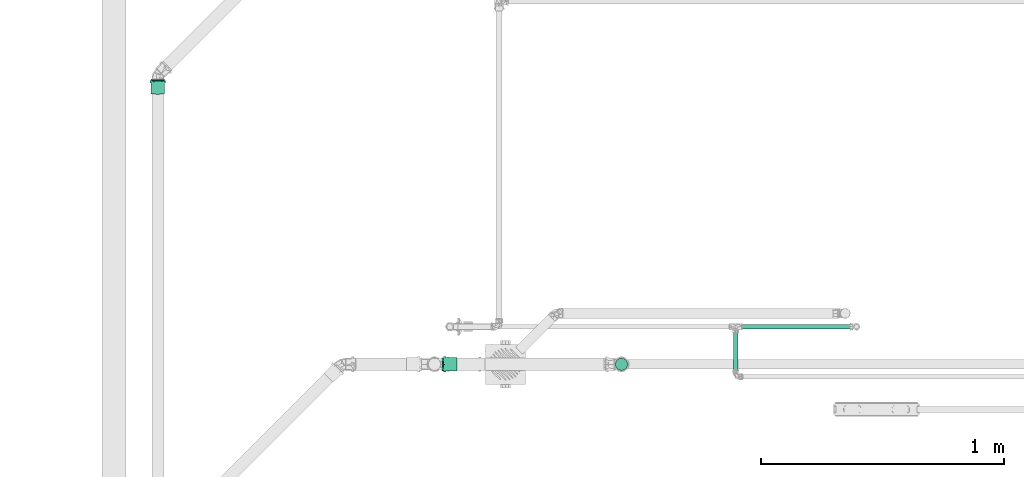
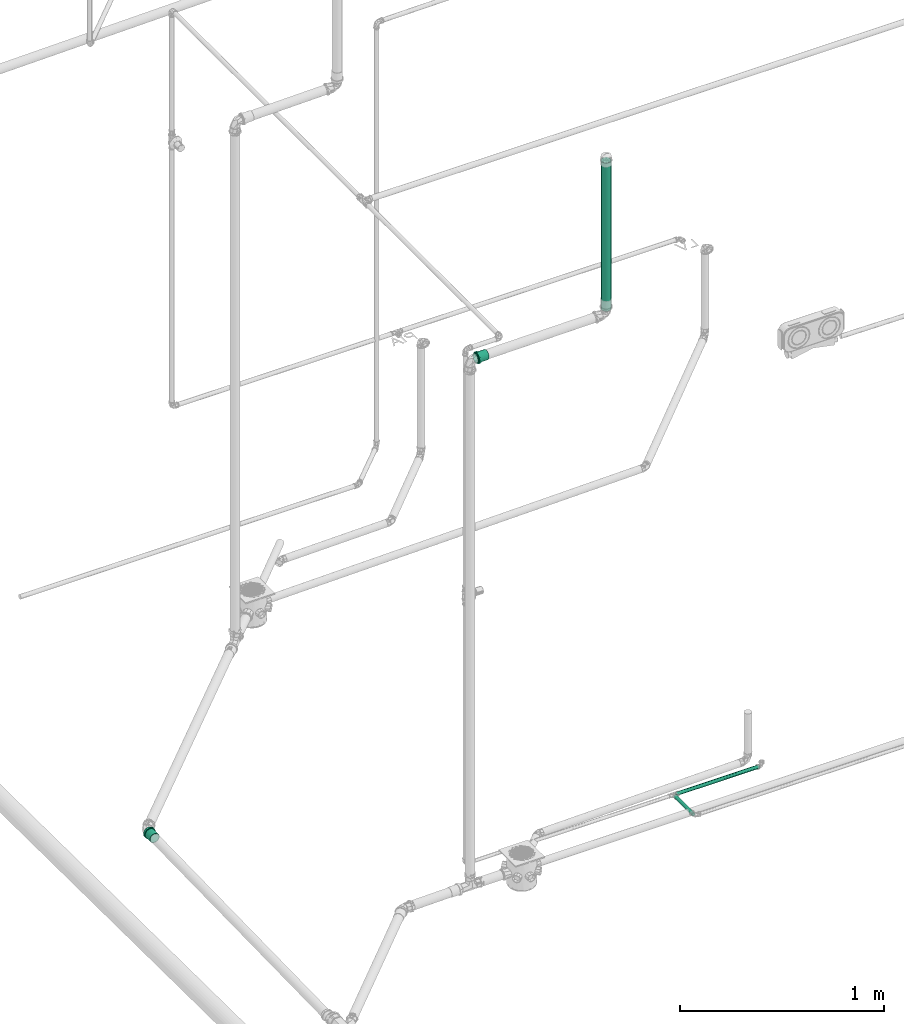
# One storey, part 31 of 589: 3 flow segments, 2 flow fittings.
"""IFC2X3 building model written with IfcOpenShell, lengths in millimetres."""

from ifc_helpers import new_model, entity, si_unit, converted_unit, derived_unit, direction, frame, frame_2d, origin, origin_2d_with_axis, place, context, subcontext, project, spatial, circle, extrude, faceted_brep, source, transform, mapped, material, type_object, type_shapes, element, save


model = new_model("IFC2X3")

# Units and contexts
model_context = context("Model", 3, precision=0.01, world=origin(), true_north=direction((6.123031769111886e-17, 1.0)))
body_context = subcontext(model_context, "Body", "Model", "MODEL_VIEW")
ifc_project = project(units=[si_unit("LENGTHUNIT", "METRE", prefix="MILLI"), si_unit("AREAUNIT", "SQUARE_METRE"), si_unit("VOLUMEUNIT", "CUBIC_METRE"), converted_unit("PLANEANGLEUNIT", "DEGREE", entity("IfcRatioMeasure", 0.017453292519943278), si_unit("PLANEANGLEUNIT", "RADIAN"), dimensions=[0, 0, 0, 0, 0, 0, 0]), si_unit("MASSUNIT", "GRAM", prefix="KILO"), derived_unit("MASSDENSITYUNIT", [(si_unit("MASSUNIT", "GRAM", prefix="KILO"), 1), (si_unit("LENGTHUNIT", "METRE"), -3)]), derived_unit("IONCONCENTRATIONUNIT", [(si_unit("MASSUNIT", "GRAM", prefix="KILO"), 1), (si_unit("LENGTHUNIT", "METRE"), -3)]), derived_unit("MOMENTOFINERTIAUNIT", [(si_unit("LENGTHUNIT", "METRE"), 4)]), si_unit("TIMEUNIT", "SECOND"), si_unit("FREQUENCYUNIT", "HERTZ"), si_unit("THERMODYNAMICTEMPERATUREUNIT", "DEGREE_CELSIUS"), derived_unit("THERMALTRANSMITTANCEUNIT", [(si_unit("MASSUNIT", "GRAM", prefix="KILO"), 1), (si_unit("THERMODYNAMICTEMPERATUREUNIT", "KELVIN"), -1), (si_unit("TIMEUNIT", "SECOND"), -3)]), derived_unit("THERMALCONDUCTANCEUNIT", [(si_unit("MASSUNIT", "GRAM", prefix="KILO"), 1), (si_unit("THERMODYNAMICTEMPERATUREUNIT", "KELVIN"), -1), (si_unit("TIMEUNIT", "SECOND"), -3), (si_unit("LENGTHUNIT", "METRE"), 1)]), derived_unit("VOLUMETRICFLOWRATEUNIT", [(si_unit("LENGTHUNIT", "METRE"), 3), (si_unit("TIMEUNIT", "SECOND"), -1)]), derived_unit("MASSFLOWRATEUNIT", [(si_unit("MASSUNIT", "GRAM", prefix="KILO"), 1), (si_unit("TIMEUNIT", "SECOND"), -1)]), derived_unit("ROTATIONALFREQUENCYUNIT", [(si_unit("TIMEUNIT", "SECOND"), -1)]), si_unit("ELECTRICCURRENTUNIT", "AMPERE"), si_unit("ELECTRICVOLTAGEUNIT", "VOLT"), si_unit("POWERUNIT", "WATT"), si_unit("FORCEUNIT", "NEWTON", prefix="KILO"), si_unit("ILLUMINANCEUNIT", "LUX"), si_unit("LUMINOUSFLUXUNIT", "LUMEN"), si_unit("LUMINOUSINTENSITYUNIT", "CANDELA"), derived_unit("USERDEFINED", [(si_unit("MASSUNIT", "GRAM", prefix="KILO"), -1), (si_unit("LENGTHUNIT", "METRE"), -2), (si_unit("TIMEUNIT", "SECOND"), 3), (si_unit("LUMINOUSFLUXUNIT", "LUMEN"), 1)]), derived_unit("USERDEFINED", [(si_unit("MASSUNIT", "GRAM", prefix="KILO"), 1), (si_unit("TIMEUNIT", "SECOND"), -3), (si_unit("LENGTHUNIT", "METRE"), 3), (si_unit("ELECTRICCURRENTUNIT", "AMPERE"), -2)]), derived_unit("SOUNDPOWERUNIT", [(si_unit("MASSUNIT", "GRAM", prefix="KILO"), 1), (si_unit("TIMEUNIT", "SECOND"), -3), (si_unit("LENGTHUNIT", "METRE"), 2)]), derived_unit("SOUNDPRESSUREUNIT", [(si_unit("MASSUNIT", "GRAM", prefix="KILO"), 1), (si_unit("LENGTHUNIT", "METRE"), -1), (si_unit("TIMEUNIT", "SECOND"), -2)]), derived_unit("LINEARVELOCITYUNIT", [(si_unit("LENGTHUNIT", "METRE"), 1), (si_unit("TIMEUNIT", "SECOND"), -1)]), si_unit("PRESSUREUNIT", "PASCAL"), derived_unit("USERDEFINED", [(si_unit("MASSUNIT", "GRAM", prefix="KILO"), 1), (si_unit("LENGTHUNIT", "METRE"), -2), (si_unit("TIMEUNIT", "SECOND"), -2)]), derived_unit("LINEARFORCEUNIT", [(si_unit("MASSUNIT", "GRAM", prefix="KILO"), 1), (si_unit("TIMEUNIT", "SECOND"), -2)]), derived_unit("PLANARFORCEUNIT", [(si_unit("MASSUNIT", "GRAM", prefix="KILO"), 1), (si_unit("LENGTHUNIT", "METRE"), -1), (si_unit("TIMEUNIT", "SECOND"), -2)]), derived_unit("SPECIFICHEATCAPACITYUNIT", [(si_unit("THERMODYNAMICTEMPERATUREUNIT", "KELVIN"), -1), (si_unit("LENGTHUNIT", "METRE"), 2), (si_unit("TIMEUNIT", "SECOND"), -2)]), derived_unit("HEATINGVALUEUNIT", [(si_unit("LENGTHUNIT", "METRE"), 2), (si_unit("TIMEUNIT", "SECOND"), -2)]), derived_unit("VAPORPERMEABILITYUNIT", [(si_unit("LENGTHUNIT", "METRE"), -1), (si_unit("TIMEUNIT", "SECOND"), 1)]), derived_unit("DYNAMICVISCOSITYUNIT", [(si_unit("MASSUNIT", "GRAM", prefix="KILO"), 1), (si_unit("TIMEUNIT", "SECOND"), -1), (si_unit("LENGTHUNIT", "METRE"), -1)]), derived_unit("THERMALEXPANSIONCOEFFICIENTUNIT", [(si_unit("THERMODYNAMICTEMPERATUREUNIT", "KELVIN"), -1)]), derived_unit("MODULUSOFELASTICITYUNIT", [(si_unit("MASSUNIT", "GRAM", prefix="KILO"), 1), (si_unit("LENGTHUNIT", "METRE"), -1), (si_unit("TIMEUNIT", "SECOND"), -2)]), derived_unit("ISOTHERMALMOISTURECAPACITYUNIT", [(si_unit("LENGTHUNIT", "METRE"), 3), (si_unit("MASSUNIT", "GRAM", prefix="KILO"), -1)]), derived_unit("MOISTUREDIFFUSIVITYUNIT", [(si_unit("TIMEUNIT", "SECOND"), -1), (si_unit("LENGTHUNIT", "METRE"), 2)])], contexts=[model_context])

# Site, building, storey
site_placement = place(None, origin())
site = spatial("IfcSite", under=ifc_project, at=site_placement, Name="Default", CompositionType="ELEMENT")
building_placement = place(site_placement, origin())
building = spatial("IfcBuilding", under=site, at=building_placement, CompositionType="ELEMENT")
storey_placement = place(building_placement, frame((0.0, 0.0, 100.0)))
storey = spatial("IfcBuildingStorey", under=building, at=storey_placement, Name="TÉRREO", CompositionType="ELEMENT", Elevation=100.0)

# Flow segments
pipe_segment_type_1 = type_object("IfcPipeSegmentType", Name="Tipos de tubos:PVC Esgoto Série Normal", PredefinedType="NOTDEFINED")
flow_segment_1_placement = place(storey_placement, origin())
element("IfcFlowSegment", 1, at=flow_segment_1_placement, inside=storey, type_object=pipe_segment_type_1, Name="Tipos de tubos:PVC Esgoto Série Normal", ObjectType="Tipos de tubos:PVC Esgoto Série Normal", context=body_context, shape_type="SweptSolid", body=[
    extrude(circle(Radius=25.0, at=origin_2d_with_axis()), frame((-6858.31811075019, -7702.352283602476, 3059.9607852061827), z_axis=(0.0, 0.0, 1.0), x_axis=(-1.0, 0.0, 0.0)), (0.0, 0.0, 1.0), 887.1586040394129),
])
pipe_segment_type_2 = type_object("IfcPipeSegmentType", Name="Tipos de tubos:PVC Marrom Soldável", PredefinedType="NOTDEFINED")
flow_segment_2_placement = place(storey_placement, origin())
element("IfcFlowSegment", 2, at=flow_segment_2_placement, inside=storey, type_object=pipe_segment_type_2, Name="Tipos de tubos:PVC Marrom Soldável", ObjectType="Tipos de tubos:PVC Marrom Soldável", context=body_context, shape_type="SweptSolid", body=[
    extrude(circle(Radius=10.0, at=frame_2d((0.0, -1.5862311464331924e-14), x_axis=(1.0, 0.0))), frame((-6387.395534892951, -7740.915281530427, -104.8549301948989), z_axis=(0.0, 1.0, 0.0), x_axis=(-1.0, 0.0, 0.0)), (0.0, 0.0, 1.0), 179.88399769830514),
])
flow_segment_3_placement = place(storey_placement, origin())
element("IfcFlowSegment", 3, at=flow_segment_3_placement, inside=storey, type_object=pipe_segment_type_2, Name="Tipos de tubos:PVC Marrom Soldável", ObjectType="Tipos de tubos:PVC Marrom Soldável", context=body_context, shape_type="SweptSolid", body=[
    extrude(circle(Radius=10.0, at=frame_2d((0.0, 5.181688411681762e-14), x_axis=(1.0, 0.0))), frame((-6372.595534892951, -7547.5312838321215, -104.85493019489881), z_axis=(1.0, 0.0, 0.0), x_axis=(0.0, 1.0, 0.0)), (0.0, 0.0, 1.0), 468.29999999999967),
])

# Flow fittings
ifc_material = material(Name="PVC Série Normal")
pipe_fitting_type = type_object("IfcPipeFittingType", Name="PVC Esgoto_Luva Simples para Conexão_Rodrigo MEP:Standard", PredefinedType="NOTDEFINED", material=ifc_material)
shared_shape = source(origin(), body_context, "Body", "Brep", [
    faceted_brep([(16.599999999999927, 15.900000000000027, -27.53960784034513), (16.599999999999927, 22.485995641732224, -22.485995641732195), (16.599999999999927, 13.599999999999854, -23.555890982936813), (16.599999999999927, 7.039878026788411, -26.273182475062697), (16.599999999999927, 8.2304456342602, -30.71644127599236), (16.599999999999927, 19.233304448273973, -19.233304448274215), (16.599999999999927, 27.539607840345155, -15.899999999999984), (16.599999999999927, 23.55589098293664, -13.600000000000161), (16.599999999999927, 26.273182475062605, -7.03987802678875), (16.599999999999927, 30.716441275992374, -8.230445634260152), (16.599999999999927, 27.2, 0.0), (16.599999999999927, 31.8, 0.0), (16.599999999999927, 26.273182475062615, 7.0398780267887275), (16.599999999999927, 30.71644127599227, 8.23044563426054), (16.599999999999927, 23.555890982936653, 13.60000000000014), (16.599999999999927, 27.539607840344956, 15.900000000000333), (16.599999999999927, 19.233304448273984, 19.2333044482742), (16.599999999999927, 22.485995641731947, 22.48599564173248), (16.599999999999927, 13.599999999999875, 23.555890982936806), (16.599999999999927, 15.899999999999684, 27.53960784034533), (16.599999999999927, 7.039878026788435, 26.27318247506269), (16.599999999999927, 8.230445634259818, 30.716441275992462), (16.599999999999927, 0.0, 27.2), (16.599999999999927, 0.0, 31.8), (16.599999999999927, -7.039878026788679, 26.273182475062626), (16.599999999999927, -8.230445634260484, 30.716441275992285), (16.599999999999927, -13.600000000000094, 23.555890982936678), (16.599999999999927, -15.900000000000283, 27.53960784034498), (16.599999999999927, -19.23330444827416, 19.233304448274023), (16.599999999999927, -22.485995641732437, 22.48599564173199), (16.599999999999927, -23.55589098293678, 13.59999999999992), (16.599999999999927, -27.539607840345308, 15.899999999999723), (16.599999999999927, -30.71644127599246, 8.230445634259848), (16.599999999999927, -26.273182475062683, 7.039878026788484), (16.599999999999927, -31.8, 0.0), (16.599999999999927, -27.2, 0.0), (16.599999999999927, -30.71644127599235, -8.23044563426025), (16.599999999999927, -26.273182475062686, -7.03987802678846), (16.599999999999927, -27.53960784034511, -15.90000000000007), (16.599999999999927, -23.55589098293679, -13.599999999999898), (16.599999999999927, -22.485995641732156, -22.485995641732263), (16.599999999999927, -19.233304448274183, -19.233304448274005), (16.599999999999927, -15.899999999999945, -27.53960784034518), (16.599999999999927, -13.600000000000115, -23.555890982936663), (16.599999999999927, -8.230445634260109, -30.716441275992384), (16.599999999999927, -7.039878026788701, -26.273182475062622), (16.599999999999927, 0.0, -31.8), (16.599999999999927, 0.0, -27.2), (6.500000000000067, -10.708108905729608, 29.429219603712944), (6.500000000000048, -24.359073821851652, 20.44200387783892), (6.500000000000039, -27.120498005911, 15.6595386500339), (6.50000000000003, -29.881922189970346, 10.877073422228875), (6.500000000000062, -15.89769721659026, 27.540937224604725), (6.500000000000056, -20.128385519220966, 23.991470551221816), (6.50000000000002, -30.840961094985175, 5.438536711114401), (6.5000000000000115, -31.8, 0.0), (6.50000000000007, -5.518520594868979, 31.317501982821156), (6.500000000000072, 5.526376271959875, 31.316116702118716), (6.50000000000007, 0.00392783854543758, 31.316809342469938), (6.500000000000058, 20.134403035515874, 23.986420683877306), (6.500000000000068, 10.715490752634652, 29.42653259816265), (6.500000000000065, 15.904605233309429, 27.536948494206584), (6.500000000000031, 29.8846497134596, 10.869577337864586), (6.500000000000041, 27.12442527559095, 15.652735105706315), (6.5000000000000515, 24.364200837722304, 20.435892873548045), (6.5000000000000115, 31.8, 0.0), (6.499999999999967, 24.364200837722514, -20.435892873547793), (6.499999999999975, 27.12442527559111, -15.652735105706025), (6.499999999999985, 29.884649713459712, -10.869577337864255), (6.4999999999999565, 15.904605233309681, -27.53694849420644), (6.499999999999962, 20.134403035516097, -23.986420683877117), (6.499999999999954, 10.715490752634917, -29.42653259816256), (6.499999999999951, 5.526376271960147, -31.31611670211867), (6.499999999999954, -5.518520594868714, -31.317501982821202), (6.499999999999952, 0.003927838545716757, -31.316809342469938), (6.499999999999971, -20.128385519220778, -23.99147055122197), (6.499999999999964, -15.897697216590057, -27.54093722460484), (6.499999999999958, -10.70810890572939, -29.42921960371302), (6.499999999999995, -29.881922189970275, -10.877073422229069), (6.499999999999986, -27.12049800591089, -15.659538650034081), (6.499999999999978, -24.359073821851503, -20.442003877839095), (6.500000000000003, -30.840961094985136, -5.438536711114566), (6.499999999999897, -30.696173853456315, -6.259599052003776), (62.0, 13.600000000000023, -23.55589098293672), (62.0, 19.233304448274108, -19.23330444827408), (62.0, 12.499999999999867, -21.650635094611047), (62.0, 6.470476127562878, -24.14814565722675), (62.0, 7.039878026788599, -26.273182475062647), (62.0, 17.677669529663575, -17.677669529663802), (62.0, 23.55589098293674, -13.599999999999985), (62.0, 21.65063509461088, -12.50000000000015), (62.0, 24.148145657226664, -6.470476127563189), (62.0, 26.27318247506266, -7.039878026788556), (62.0, 25.0, 0.0), (62.0, 27.2, 0.0), (62.0, 24.148145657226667, 6.4704761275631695), (62.0, 26.273182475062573, 7.03987802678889), (62.0, 21.650635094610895, 12.500000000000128), (62.0, 23.555890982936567, 13.600000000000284), (62.0, 17.67766952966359, 17.67766952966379), (62.0, 19.233304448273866, 19.233304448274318), (62.0, 12.499999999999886, 21.650635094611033), (62.0, 13.59999999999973, 23.55589098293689), (62.0, 6.4704761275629, 24.14814565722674), (62.0, 7.039878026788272, 26.273182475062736), (62.0, 0.0, 25.0), (62.0, 0.0, 27.2), (62.0, -6.470476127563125, 24.148145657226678), (62.0, -7.039878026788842, 26.273182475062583), (62.0, -12.500000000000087, 21.650635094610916), (62.0, -13.600000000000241, 23.555890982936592), (62.0, -17.677669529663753, 17.677669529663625), (62.0, -19.233304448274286, 19.2333044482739), (62.0, -21.65063509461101, 12.499999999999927), (62.0, -23.555890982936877, 13.599999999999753), (62.0, -26.27318247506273, 7.039878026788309), (62.0, -24.14814565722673, 6.470476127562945), (62.0, -27.2, 0.0), (62.0, -25.0, 0.0), (62.0, -26.27318247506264, -7.0398780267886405), (62.0, -24.148145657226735, -6.470476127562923), (62.0, -23.5558909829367, -13.600000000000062), (62.0, -21.650635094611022, -12.499999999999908), (62.0, -19.233304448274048, -19.233304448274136), (62.0, -17.67766952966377, -17.677669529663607), (62.0, -13.599999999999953, -23.555890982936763), (62.0, -12.500000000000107, -21.650635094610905), (62.0, -7.039878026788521, -26.27318247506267), (62.0, -6.470476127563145, -24.148145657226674), (62.0, 0.0, -27.2), (62.0, 0.0, -25.0), (0.0, 12.499999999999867, -21.650635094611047), (0.0, 19.233304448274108, -19.23330444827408), (0.0, 13.600000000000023, -23.55589098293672), (0.0, 6.470476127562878, -24.14814565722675), (0.0, 17.677669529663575, -17.677669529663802), (0.0, 23.55589098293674, -13.599999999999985), (0.0, 21.65063509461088, -12.50000000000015), (0.0, 24.148145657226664, -6.470476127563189), (0.0, 26.27318247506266, -7.039878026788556), (0.0, 25.0, 0.0), (0.0, 27.2, 0.0), (0.0, 24.148145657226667, 6.4704761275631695), (0.0, 26.273182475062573, 7.03987802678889), (0.0, 21.650635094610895, 12.500000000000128), (0.0, 23.555890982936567, 13.600000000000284), (0.0, 17.67766952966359, 17.67766952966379), (0.0, 19.233304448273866, 19.233304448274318), (0.0, 12.499999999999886, 21.650635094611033), (0.0, 13.59999999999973, 23.55589098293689), (0.0, 6.4704761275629, 24.14814565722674), (0.0, 7.039878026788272, 26.273182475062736), (0.0, 0.0, 25.0), (0.0, 0.0, 27.2), (0.0, -6.470476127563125, 24.148145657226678), (0.0, -7.039878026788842, 26.273182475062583), (0.0, -12.500000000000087, 21.650635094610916), (0.0, -13.600000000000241, 23.555890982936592), (0.0, -17.677669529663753, 17.677669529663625), (0.0, -19.233304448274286, 19.2333044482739), (0.0, -21.65063509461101, 12.499999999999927), (0.0, -23.555890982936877, 13.599999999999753), (0.0, -26.27318247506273, 7.039878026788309), (0.0, -24.14814565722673, 6.470476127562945), (0.0, -27.2, 0.0), (0.0, -25.0, 0.0), (0.0, -26.27318247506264, -7.0398780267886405), (0.0, -24.148145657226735, -6.470476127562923), (0.0, -23.5558909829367, -13.600000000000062), (0.0, -21.650635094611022, -12.499999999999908), (0.0, -19.233304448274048, -19.233304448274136), (0.0, -17.67766952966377, -17.677669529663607), (0.0, -13.599999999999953, -23.555890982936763), (0.0, -12.500000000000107, -21.650635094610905), (0.0, -7.039878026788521, -26.27318247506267), (0.0, -6.470476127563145, -24.148145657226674), (0.0, 0.0, -27.2), (0.0, 0.0, -25.0), (0.0, 7.039878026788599, -26.273182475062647), (5.300000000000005, -26.37968999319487, 4.651830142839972), (5.299999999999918, -26.25584678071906, 5.354122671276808), (5.300000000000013, -25.559379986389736, 9.303660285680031), (5.300000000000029, -20.835434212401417, 17.48498444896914), (5.300000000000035, -17.216732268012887, 20.521006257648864), (5.300000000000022, -23.19740709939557, 13.394322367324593), (5.3000000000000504, -4.720244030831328, 26.787297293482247), (5.300000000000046, -9.15913717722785, 25.172162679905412), (5.299999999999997, -27.2, 0.0), (5.300000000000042, -13.598030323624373, 23.557028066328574), (5.300000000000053, 9.165451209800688, 25.169864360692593), (5.300000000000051, 13.603939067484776, 23.55361632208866), (5.300000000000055, 4.7269633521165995, 26.786112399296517), (5.300000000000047, 17.221879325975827, 20.516686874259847), (5.300000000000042, 20.839819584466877, 17.479757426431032), (5.3000000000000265, 25.56171296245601, 9.297248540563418), (5.299999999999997, 27.2, 0.0), (5.3000000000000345, 23.20076627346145, 13.388502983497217), (5.300000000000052, 0.003359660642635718, 26.786704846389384), (5.299999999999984, 25.56171296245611, -9.29724854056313), (5.299999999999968, 20.839819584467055, -17.47975742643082), (5.2999999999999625, 17.22187932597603, -20.516686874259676), (5.299999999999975, 23.200766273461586, -13.388502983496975), (5.299999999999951, 4.726963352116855, -26.78611239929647), (5.2999999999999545, 9.165451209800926, -25.169864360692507), (5.299999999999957, 13.603939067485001, -23.553616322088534), (5.29999999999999, -26.379689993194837, -4.651830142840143), (5.299999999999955, -9.159137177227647, -25.17216267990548), (5.299999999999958, -13.5980303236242, -23.55702806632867), (5.299999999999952, -4.720244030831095, -26.787297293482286), (5.299999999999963, -17.216732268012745, -20.52100625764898), (5.299999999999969, -20.83543421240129, -17.484984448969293), (5.299999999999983, -25.559379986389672, -9.303660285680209), (5.299999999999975, -23.197407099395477, -13.394322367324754), (5.299999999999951, 0.003359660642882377, -26.78670484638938), (39.0, -25.0, 0.0), (39.0, 25.0, 0.0)], [[[0, 1, 2]], [[0, 2, 3]], [[3, 4, 0]], [[2, 1, 5]], [[6, 5, 1]], [[7, 5, 6]], [[8, 7, 6]], [[8, 6, 9]], [[8, 9, 10]], [[10, 9, 11]], [[12, 10, 11]], [[12, 11, 13]], [[14, 12, 13]], [[14, 13, 15]], [[16, 14, 15]], [[15, 17, 16]], [[17, 18, 16]], [[17, 19, 18]], [[18, 19, 20]], [[21, 20, 19]], [[20, 21, 22]], [[22, 21, 23]], [[22, 23, 24]], [[24, 23, 25]], [[24, 25, 26]], [[27, 26, 25]], [[27, 28, 26]], [[28, 27, 29]], [[30, 28, 29]], [[31, 30, 29]], [[32, 30, 31]], [[33, 30, 32]], [[33, 32, 34]], [[35, 33, 34]], [[36, 35, 34]], [[36, 37, 35]], [[37, 36, 38]], [[39, 37, 38]], [[39, 38, 40]], [[39, 40, 41]], [[40, 42, 41]], [[41, 42, 43]], [[43, 42, 44]], [[44, 45, 43]], [[46, 45, 44]], [[4, 47, 46]], [[46, 47, 45]], [[4, 3, 47]], [[48, 27, 25]], [[31, 29, 49]], [[31, 49, 50, 51]], [[52, 53, 27]], [[32, 51, 54]], [[54, 55, 34]], [[54, 34, 32]], [[25, 56, 48]], [[49, 29, 53]], [[23, 57, 58, 56]], [[59, 19, 17]], [[27, 53, 29]], [[48, 52, 27]], [[31, 51, 32]], [[57, 23, 21]], [[60, 19, 61]], [[15, 62, 63, 64]], [[19, 60, 21]], [[15, 13, 62]], [[17, 64, 59]], [[57, 21, 60]], [[23, 56, 25]], [[15, 64, 17]], [[13, 65, 62]], [[13, 11, 65]], [[59, 61, 19]], [[65, 11, 9]], [[6, 1, 66]], [[6, 66, 67, 68]], [[69, 70, 0]], [[68, 65, 9]], [[71, 69, 0]], [[71, 0, 4]], [[4, 72, 71]], [[66, 1, 70]], [[46, 73, 74, 72]], [[75, 76, 42]], [[0, 70, 1]], [[75, 42, 40]], [[6, 68, 9]], [[73, 46, 44]], [[77, 42, 76]], [[38, 78, 79, 80]], [[42, 77, 44]], [[38, 36, 78]], [[40, 80, 75]], [[73, 44, 77]], [[46, 72, 4]], [[38, 80, 40]], [[36, 81, 82, 78]], [[55, 81, 34]], [[34, 81, 36]], [[83, 84, 85]], [[83, 85, 86]], [[86, 87, 83]], [[85, 84, 88]], [[89, 88, 84]], [[88, 89, 90]], [[90, 89, 91]], [[92, 91, 89]], [[92, 93, 91]], [[93, 92, 94]], [[95, 93, 94]], [[94, 96, 95]], [[95, 96, 97]], [[98, 97, 96]], [[97, 98, 99]], [[99, 98, 100]], [[101, 99, 100]], [[100, 102, 101]], [[101, 102, 103]], [[104, 103, 102]], [[103, 104, 105]], [[105, 104, 106]], [[105, 106, 107]], [[107, 106, 108]], [[107, 108, 109]], [[110, 109, 108]], [[110, 111, 109]], [[111, 110, 112]], [[112, 113, 111]], [[114, 113, 112]], [[113, 114, 115]], [[115, 116, 113]], [[117, 116, 115]], [[117, 118, 116]], [[119, 118, 117]], [[119, 120, 118]], [[120, 119, 121]], [[121, 122, 120]], [[122, 121, 123]], [[122, 123, 124]], [[123, 125, 124]], [[124, 125, 126]], [[126, 125, 127]], [[127, 128, 126]], [[129, 128, 127]], [[87, 130, 129]], [[129, 130, 128]], [[87, 86, 130]], [[131, 132, 133]], [[134, 131, 133]], [[135, 132, 131]], [[132, 135, 136]], [[137, 136, 135]], [[138, 136, 137]], [[136, 138, 139]], [[138, 140, 139]], [[141, 139, 140]], [[141, 140, 142]], [[142, 143, 141]], [[144, 143, 142]], [[143, 144, 145]], [[146, 145, 144]], [[147, 145, 146]], [[147, 146, 148]], [[148, 149, 147]], [[150, 149, 148]], [[149, 150, 151]], [[152, 151, 150]], [[153, 151, 152]], [[154, 153, 152]], [[155, 153, 154]], [[156, 155, 154]], [[155, 156, 157]], [[156, 158, 157]], [[159, 157, 158]], [[158, 160, 159]], [[159, 160, 161]], [[162, 161, 160]], [[160, 163, 162]], [[162, 163, 164]], [[163, 165, 164]], [[164, 165, 166]], [[165, 167, 166]], [[168, 166, 167]], [[167, 169, 168]], [[170, 168, 169]], [[171, 170, 169]], [[171, 172, 170]], [[173, 172, 171]], [[174, 172, 173]], [[173, 175, 174]], [[174, 175, 176]], [[175, 177, 176]], [[177, 134, 178]], [[176, 177, 178]], [[133, 178, 134]], [[162, 179, 180, 181]], [[159, 182, 183]], [[182, 161, 181, 184]], [[185, 155, 186]], [[161, 162, 181]], [[187, 179, 164]], [[183, 188, 157]], [[183, 157, 159]], [[161, 182, 159]], [[189, 190, 149]], [[189, 149, 151]], [[157, 188, 186]], [[157, 186, 155]], [[153, 155, 185]], [[164, 179, 162]], [[151, 191, 189]], [[147, 192, 193]], [[143, 194, 195]], [[194, 145, 193, 196]], [[143, 195, 141]], [[10, 12, 96, 94]], [[149, 192, 147]], [[153, 185, 197, 191]], [[153, 191, 151]], [[145, 147, 193]], [[190, 192, 149]], [[145, 194, 143]], [[139, 195, 198]], [[132, 199, 200]], [[199, 136, 198, 201]], [[202, 178, 203]], [[136, 139, 198]], [[139, 141, 195]], [[92, 8, 10, 94]], [[133, 203, 178]], [[200, 204, 133]], [[136, 199, 132]], [[205, 164, 166]], [[206, 207, 172]], [[133, 204, 203]], [[206, 172, 174]], [[176, 178, 202]], [[200, 133, 132]], [[174, 208, 206]], [[170, 209, 210]], [[166, 211, 205]], [[211, 168, 210, 212]], [[168, 211, 166]], [[172, 209, 170]], [[176, 202, 213, 208]], [[176, 208, 174]], [[168, 170, 210]], [[207, 209, 172]], [[205, 187, 164]], [[116, 118, 214, 165, 163]], [[156, 109, 111, 158]], [[111, 113, 160, 158]], [[113, 116, 163, 160]], [[107, 109, 156, 154]], [[154, 152, 105, 107]], [[103, 105, 152, 150]], [[103, 150, 148, 101]], [[142, 95, 97, 144]], [[97, 99, 146, 144]], [[99, 101, 148, 146]], [[93, 95, 142, 140, 215]], [[215, 140, 138, 91, 93]], [[135, 131, 85, 88]], [[90, 91, 138, 137]], [[90, 137, 135, 88]], [[86, 85, 131, 134]], [[134, 177, 130, 86]], [[128, 130, 177, 175]], [[128, 175, 173, 126]], [[167, 120, 122, 169]], [[122, 124, 171, 169]], [[124, 126, 173, 171]], [[118, 120, 167, 165, 214]], [[211, 78, 82, 81, 55, 187, 205]], [[79, 78, 211, 212, 210, 80]], [[75, 80, 210, 209, 207, 76]], [[207, 206, 208, 73, 77, 76]], [[213, 202, 72, 74, 73, 208]], [[203, 204, 69, 71, 72, 202]], [[198, 195, 65, 68]], [[199, 201, 198, 68, 67, 66]], [[204, 200, 199, 66, 70, 69]], [[195, 194, 62, 65]], [[197, 185, 56, 58, 57, 191]], [[63, 62, 194, 196, 193, 64]], [[57, 60, 61, 190, 189, 191]], [[193, 192, 190, 61, 59, 64]], [[48, 56, 185, 186, 188, 52]], [[187, 55, 54, 51, 181, 180, 179]], [[182, 184, 181, 51, 50, 49]], [[188, 183, 182, 49, 53, 52]], [[30, 33, 115, 114]], [[117, 115, 33, 35]], [[26, 28, 112, 110]], [[114, 112, 28, 30]], [[24, 26, 110, 108]], [[108, 106, 22, 24]], [[18, 20, 104, 102]], [[100, 16, 18, 102]], [[12, 14, 98, 96]], [[100, 98, 14, 16]], [[104, 20, 22, 106]], [[89, 7, 8, 92]], [[83, 87, 3, 2]], [[7, 89, 84, 5]], [[83, 2, 5, 84]], [[87, 129, 47, 3]], [[43, 45, 127, 125]], [[123, 41, 43, 125]], [[37, 39, 121, 119]], [[123, 121, 39, 41]], [[35, 37, 119, 117]], [[127, 45, 47, 129]]]),
])
type_shapes(pipe_fitting_type, [shared_shape])
for number, where, z_axis, x_axis, name in (
    (4, (-7597.387957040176, -7702.352283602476, 3021.628786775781), (0.0, 1.0, 0.0), (0.9999500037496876, 0.0, 0.009999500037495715), "PVC Esgoto_Luva Simples para Conexão_Rodrigo MEP:Standard"),
    (5, (-8768.11696502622, -6527.263177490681, -110.27009362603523), (0.019992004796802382, -0.01999200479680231, 0.999600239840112), (0.0, -0.9998000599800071, -0.019996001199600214), "PVC Esgoto_Luva Simples para Conexão_Rodrigo MEP:Standard"),
):
    element("IfcFlowFitting", number, at=place(storey_placement, frame(where, z_axis=z_axis, x_axis=x_axis)), inside=storey, type_object=pipe_fitting_type, material=ifc_material, Name=name, ObjectType="PVC Esgoto_Luva Simples para Conexão_Rodrigo MEP:Standard", context=body_context, shape_type="MappedRepresentation", body=[
        mapped(shared_shape, transform((0.0, 0.0, 0.0), scale=1.0)),
    ])

save(model, "model.ifc")
